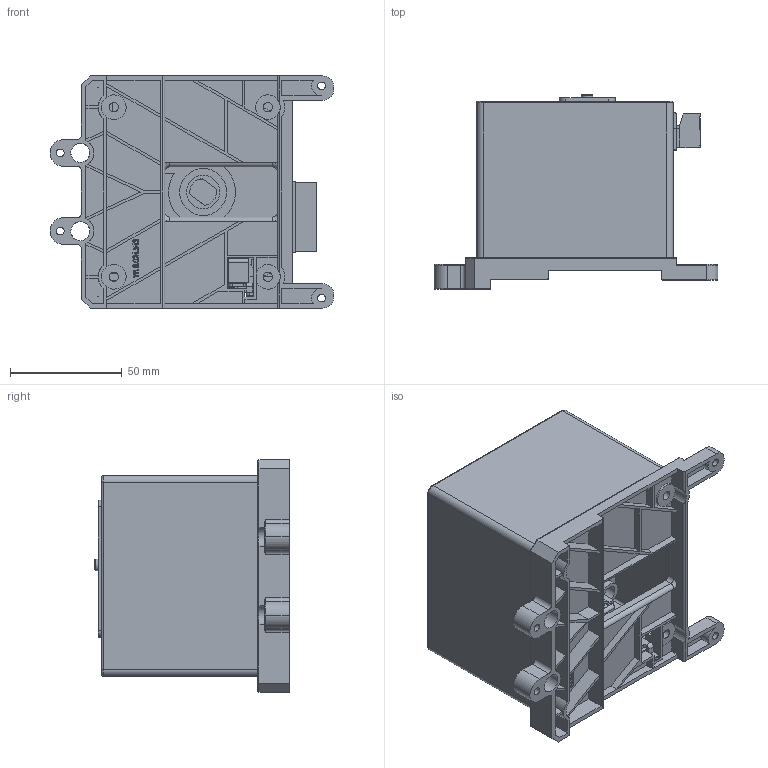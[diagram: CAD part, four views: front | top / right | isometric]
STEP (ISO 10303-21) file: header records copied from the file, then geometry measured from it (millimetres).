
FILE_DESCRIPTION(/* description */ (''),/* implementation_level */ '2;1');
FILE_NAME(/* name */ 'MOT25GM_3D DATA.stp',/* time_stamp */ '2017-12-26T17:24:19+09:00',/* author */ (''),/* organization */ (''),/* preprocessor_version */ 'ST-DEVELOPER v15',/* originating_system */ 'SIEMENS PLM Software NX 9.0',/* authorisation */ '');
FILE_SCHEMA (('AP203_CONFIGURATION_CONTROLLED_3D_DESIGN_OF_MECHANICAL_PARTS_AND_ASSEMBLIES_MIM_LF { 1 0 10303 403 2 1 2}'));
Products named in the file (11): _____id149_x_t; 12GM__WL8.310.237.2_id144_x_t; CD4B-25GM_id139_x_t; WL8.310.235.2_____id134_x_t; CD9-250____-POM-WL8.261.xd_id129_x_t; 6__________5.08_id124_x_t; _____________id119_x_t; MOT-25GM-______WL8.235.365_id114_x_t; 25GM____WL8.024.543_id11_x_t; WL8.253.070 HY____-ABS_id6_x_t; CD4B-25GM_x_t
Assembly tree (10 placements, depth 2):
  CD4B-25GM_x_t
    WL8.253.070 HY____-ABS_id6_x_t
    25GM____WL8.024.543_id11_x_t
    MOT-25GM-______WL8.235.365_id114_x_t
    _____________id119_x_t
    6__________5.08_id124_x_t
    CD9-250____-POM-WL8.261.xd_id129_x_t
    WL8.310.235.2_____id134_x_t
    CD4B-25GM_id139_x_t
    12GM__WL8.310.237.2_id144_x_t
    _____id149_x_t
Bounding box: 127 x 87 x 104 mm (x, y, z)
Volume: 132810.7 mm3; surface area: 148025.4 mm2
Topology: 10 solids, 10 shells, 2064 faces, 5637 edges, 3667 vertices
Faces by surface type: plane 1500, cylinder 342, extrusion 131, torus 60, cone 21, bspline 10
Full cylindrical faces by diameter (mm): 1.9 x2, 2.15 x2, 2.3 x1, 2.4 x1, 2.8 x6, 3.2 x3, 3.5 x6, 3.7 x6, 4 x1, 4.1 x2, 4.2 x3, 5.2 x1, 5.5 x2, 6 x6, 6.5 x4, 7 x1, 7.5 x2, 8.5 x3, 9 x1, 10 x1, 10.5 x2, 15 x1, 18 x1, 21 x1, 24 x1
Entity records: 71550 total; most frequent: CARTESIAN_POINT 18375, ORIENTED_EDGE 11084, DIRECTION 10037, EDGE_CURVE 5542, VECTOR 4511, LINE 4380, VERTEX_POINT 3644, AXIS2_PLACEMENT_3D 2763
